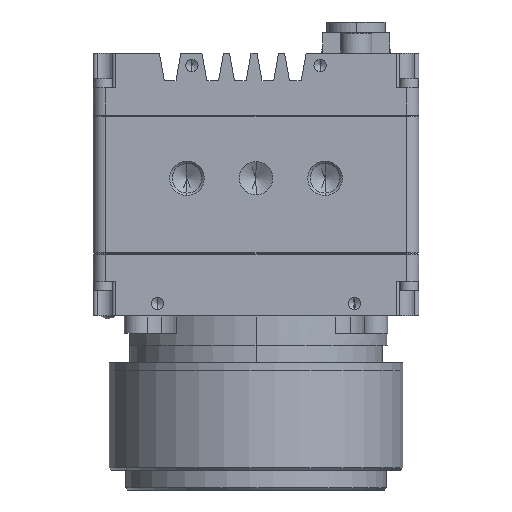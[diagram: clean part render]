
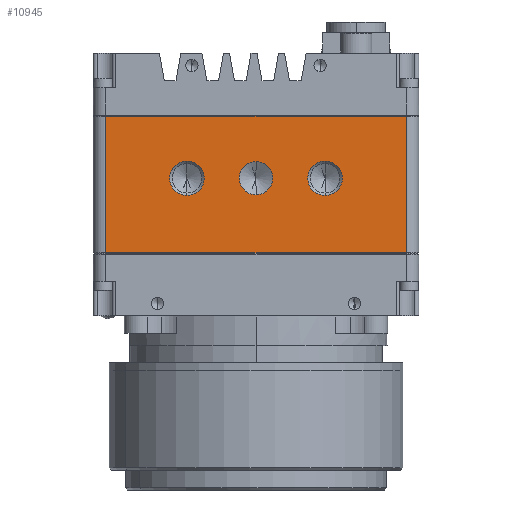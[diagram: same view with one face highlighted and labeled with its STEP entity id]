
A CAD part, front view. The second image highlights one B-rep face of the part: STEP entity #10945.
In plain terms, the highlighted planar face has unit normal (0, -1, 0).
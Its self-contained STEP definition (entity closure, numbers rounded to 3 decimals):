
#4 = EDGE_LOOP ( 'NONE', ( #26344, #21640, #4782, #13034 ) ) ;
#244 = DIRECTION ( 'NONE',  ( 0., -1., 0. ) ) ;
#369 = FACE_BOUND ( 'NONE', #15012, .T. ) ;
#654 = CIRCLE ( 'NONE', #24818, 3.5 ) ;
#886 = VERTEX_POINT ( 'NONE', #8057 ) ;
#1213 = DIRECTION ( 'NONE',  ( 0., -1., 0. ) ) ;
#1219 = AXIS2_PLACEMENT_3D ( 'NONE', #18319, #1213, #14151 ) ;
#1812 = DIRECTION ( 'NONE',  ( -1., 0., 0. ) ) ;
#1887 = CARTESIAN_POINT ( 'NONE',  ( 14., -26.67, -12.7 ) ) ;
#2238 = CARTESIAN_POINT ( 'NONE',  ( -14., -26.67, -12.7 ) ) ;
#2369 = CARTESIAN_POINT ( 'NONE',  ( -30.48, -26.67, -0.127 ) ) ;
#2574 = AXIS2_PLACEMENT_3D ( 'NONE', #7057, #6785, #11310 ) ;
#2773 = VECTOR ( 'NONE', #1812, 1000. ) ;
#3077 = VECTOR ( 'NONE', #20257, 1000. ) ;
#4061 = EDGE_CURVE ( 'NONE', #23203, #886, #10424, .T. ) ;
#4092 = AXIS2_PLACEMENT_3D ( 'NONE', #2238, #21225, #23262 ) ;
#4782 = ORIENTED_EDGE ( 'NONE', *, *, #13058, .F. ) ;
#5560 = FACE_BOUND ( 'NONE', #23393, .T. ) ;
#5749 = AXIS2_PLACEMENT_3D ( 'NONE', #21485, #244, #14923 ) ;
#6512 = VERTEX_POINT ( 'NONE', #19774 ) ;
#6785 = DIRECTION ( 'NONE',  ( 0., 1., 0. ) ) ;
#7057 = CARTESIAN_POINT ( 'NONE',  ( -33.02, -26.67, 0. ) ) ;
#7249 = EDGE_CURVE ( 'NONE', #20166, #16275, #24689, .T. ) ;
#7500 = EDGE_LOOP ( 'NONE', ( #22339, #19226 ) ) ;
#7955 = DIRECTION ( 'NONE',  ( 0., 0., -1. ) ) ;
#8057 = CARTESIAN_POINT ( 'NONE',  ( -14., -26.67, -9.2 ) ) ;
#8574 = EDGE_CURVE ( 'NONE', #21739, #20847, #18598, .T. ) ;
#8743 = EDGE_CURVE ( 'NONE', #6512, #19259, #14966, .T. ) ;
#9298 = DIRECTION ( 'NONE',  ( 0., 0., -1. ) ) ;
#10015 = CARTESIAN_POINT ( 'NONE',  ( 30.48, -26.67, 0. ) ) ;
#10092 = CIRCLE ( 'NONE', #11405, 3.5 ) ;
#10424 = CIRCLE ( 'NONE', #4092, 3.5 ) ;
#10838 = EDGE_CURVE ( 'NONE', #19259, #21739, #23408, .T. ) ;
#10887 = FACE_OUTER_BOUND ( 'NONE', #4, .T. ) ;
#10945 = ADVANCED_FACE ( 'NONE', ( #5560, #24074, #369, #10887 ), #11053, .F. ) ;
#11053 = PLANE ( 'NONE',  #2574 ) ;
#11139 = CARTESIAN_POINT ( 'NONE',  ( -30.48, -26.67, -27.813 ) ) ;
#11310 = DIRECTION ( 'NONE',  ( 0., 0., 1. ) ) ;
#11405 = AXIS2_PLACEMENT_3D ( 'NONE', #15132, #22265, #18759 ) ;
#12108 = DIRECTION ( 'NONE',  ( 0., -1., 0. ) ) ;
#12317 = LINE ( 'NONE', #24688, #2773 ) ;
#12684 = AXIS2_PLACEMENT_3D ( 'NONE', #15539, #15461, #9298 ) ;
#12942 = CIRCLE ( 'NONE', #5749, 3.378 ) ;
#13034 = ORIENTED_EDGE ( 'NONE', *, *, #8743, .T. ) ;
#13058 = EDGE_CURVE ( 'NONE', #6512, #20847, #12317, .T. ) ;
#14151 = DIRECTION ( 'NONE',  ( 0., 0., -1. ) ) ;
#14185 = ORIENTED_EDGE ( 'NONE', *, *, #4061, .F. ) ;
#14606 = VECTOR ( 'NONE', #16625, 1000. ) ;
#14918 = EDGE_CURVE ( 'NONE', #886, #23203, #19955, .T. ) ;
#14923 = DIRECTION ( 'NONE',  ( 0., 0., -1. ) ) ;
#14966 = LINE ( 'NONE', #10015, #14606 ) ;
#15012 = EDGE_LOOP ( 'NONE', ( #23765, #17637 ) ) ;
#15132 = CARTESIAN_POINT ( 'NONE',  ( 14., -26.67, -12.7 ) ) ;
#15461 = DIRECTION ( 'NONE',  ( 0., -1., 0. ) ) ;
#15539 = CARTESIAN_POINT ( 'NONE',  ( -14., -26.67, -12.7 ) ) ;
#16064 = VERTEX_POINT ( 'NONE', #20288 ) ;
#16275 = VERTEX_POINT ( 'NONE', #23314 ) ;
#16625 = DIRECTION ( 'NONE',  ( 0., 0., 1. ) ) ;
#16896 = CARTESIAN_POINT ( 'NONE',  ( 0., -26.67, -9.322 ) ) ;
#17451 = VECTOR ( 'NONE', #21085, 1000. ) ;
#17637 = ORIENTED_EDGE ( 'NONE', *, *, #7249, .F. ) ;
#17779 = CARTESIAN_POINT ( 'NONE',  ( -30.48, -26.67, -0.127 ) ) ;
#18162 = EDGE_CURVE ( 'NONE', #16275, #20166, #12942, .T. ) ;
#18319 = CARTESIAN_POINT ( 'NONE',  ( 0., -26.67, -12.7 ) ) ;
#18598 = LINE ( 'NONE', #24693, #3077 ) ;
#18759 = DIRECTION ( 'NONE',  ( 0., 0., -1. ) ) ;
#19226 = ORIENTED_EDGE ( 'NONE', *, *, #20779, .F. ) ;
#19259 = VERTEX_POINT ( 'NONE', #26102 ) ;
#19774 = CARTESIAN_POINT ( 'NONE',  ( 30.48, -26.67, -27.813 ) ) ;
#19955 = CIRCLE ( 'NONE', #12684, 3.5 ) ;
#20166 = VERTEX_POINT ( 'NONE', #16896 ) ;
#20257 = DIRECTION ( 'NONE',  ( 0., 0., -1. ) ) ;
#20288 = CARTESIAN_POINT ( 'NONE',  ( 14., -26.67, -9.2 ) ) ;
#20685 = ORIENTED_EDGE ( 'NONE', *, *, #14918, .F. ) ;
#20779 = EDGE_CURVE ( 'NONE', #16064, #22393, #10092, .T. ) ;
#20847 = VERTEX_POINT ( 'NONE', #11139 ) ;
#21085 = DIRECTION ( 'NONE',  ( -1., 0., 0. ) ) ;
#21225 = DIRECTION ( 'NONE',  ( 0., -1., 0. ) ) ;
#21485 = CARTESIAN_POINT ( 'NONE',  ( 0., -26.67, -12.7 ) ) ;
#21640 = ORIENTED_EDGE ( 'NONE', *, *, #8574, .T. ) ;
#21657 = CARTESIAN_POINT ( 'NONE',  ( -14., -26.67, -16.2 ) ) ;
#21739 = VERTEX_POINT ( 'NONE', #17779 ) ;
#22265 = DIRECTION ( 'NONE',  ( 0., -1., 0. ) ) ;
#22339 = ORIENTED_EDGE ( 'NONE', *, *, #25226, .F. ) ;
#22393 = VERTEX_POINT ( 'NONE', #27311 ) ;
#23203 = VERTEX_POINT ( 'NONE', #21657 ) ;
#23262 = DIRECTION ( 'NONE',  ( 0., 0., -1. ) ) ;
#23314 = CARTESIAN_POINT ( 'NONE',  ( 0., -26.67, -16.078 ) ) ;
#23393 = EDGE_LOOP ( 'NONE', ( #14185, #20685 ) ) ;
#23408 = LINE ( 'NONE', #2369, #17451 ) ;
#23765 = ORIENTED_EDGE ( 'NONE', *, *, #18162, .F. ) ;
#24074 = FACE_BOUND ( 'NONE', #7500, .T. ) ;
#24688 = CARTESIAN_POINT ( 'NONE',  ( -30.48, -26.67, -27.813 ) ) ;
#24689 = CIRCLE ( 'NONE', #1219, 3.378 ) ;
#24693 = CARTESIAN_POINT ( 'NONE',  ( -30.48, -26.67, 0. ) ) ;
#24818 = AXIS2_PLACEMENT_3D ( 'NONE', #1887, #12108, #7955 ) ;
#25226 = EDGE_CURVE ( 'NONE', #22393, #16064, #654, .T. ) ;
#26102 = CARTESIAN_POINT ( 'NONE',  ( 30.48, -26.67, -0.127 ) ) ;
#26344 = ORIENTED_EDGE ( 'NONE', *, *, #10838, .T. ) ;
#27311 = CARTESIAN_POINT ( 'NONE',  ( 14., -26.67, -16.2 ) ) ;
